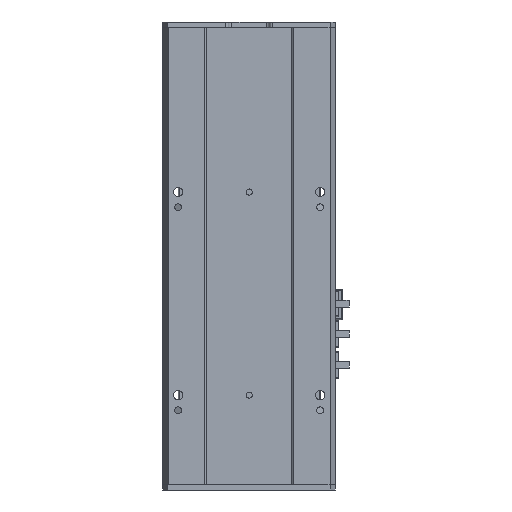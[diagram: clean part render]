
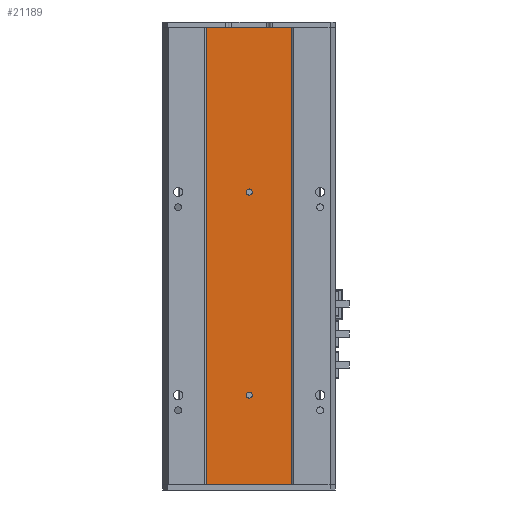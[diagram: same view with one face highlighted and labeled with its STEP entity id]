
A CAD part, front view. The second image highlights one B-rep face of the part: STEP entity #21189.
In plain terms, the highlighted planar face has unit normal (0, -1, 0).
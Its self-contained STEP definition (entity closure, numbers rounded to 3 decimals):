
#639 = EDGE_CURVE ( 'NONE', #16633, #8098, #24582, .T. ) ;
#1236 = CARTESIAN_POINT ( 'NONE',  ( 42.916, 2.57, 0. ) ) ;
#1749 = EDGE_CURVE ( 'NONE', #2679, #22700, #20309, .T. ) ;
#1962 = AXIS2_PLACEMENT_3D ( 'NONE', #16415, #3069, #18629 ) ;
#2679 = VERTEX_POINT ( 'NONE', #24534 ) ;
#3069 = DIRECTION ( 'NONE',  ( 0., 1., 0. ) ) ;
#3189 = CARTESIAN_POINT ( 'NONE',  ( 42.916, 2.57, 451. ) ) ;
#3740 = EDGE_CURVE ( 'NONE', #20918, #10129, #27542, .T. ) ;
#4021 = CIRCLE ( 'NONE', #13290, 3. ) ;
#4264 = DIRECTION ( 'NONE',  ( 0., 1., 0. ) ) ;
#4934 = ORIENTED_EDGE ( 'NONE', *, *, #3740, .T. ) ;
#5278 = FACE_BOUND ( 'NONE', #21255, .T. ) ;
#5359 = AXIS2_PLACEMENT_3D ( 'NONE', #17580, #4264, #19842 ) ;
#5479 = AXIS2_PLACEMENT_3D ( 'NONE', #13134, #28744, #15377 ) ;
#5627 = DIRECTION ( 'NONE',  ( -1., 0., 0. ) ) ;
#5739 = PLANE ( 'NONE',  #24180 ) ;
#6740 = ORIENTED_EDGE ( 'NONE', *, *, #13727, .F. ) ;
#6857 = CARTESIAN_POINT ( 'NONE',  ( 85., 2.57, 85.5 ) ) ;
#7831 = VECTOR ( 'NONE', #5627, 1000. ) ;
#7976 = DIRECTION ( 'NONE',  ( 0., 0., 1. ) ) ;
#8098 = VERTEX_POINT ( 'NONE', #21126 ) ;
#8388 = LINE ( 'NONE', #9442, #20197 ) ;
#8416 = VERTEX_POINT ( 'NONE', #6857 ) ;
#8603 = DIRECTION ( 'NONE',  ( 0., 1., 0. ) ) ;
#9101 = EDGE_LOOP ( 'NONE', ( #14309, #17227 ) ) ;
#9442 = CARTESIAN_POINT ( 'NONE',  ( 42.916, 2.57, 0. ) ) ;
#10129 = VERTEX_POINT ( 'NONE', #10835 ) ;
#10254 = CARTESIAN_POINT ( 'NONE',  ( 85., 2.57, 91.5 ) ) ;
#10835 = CARTESIAN_POINT ( 'NONE',  ( 42.916, 2.57, 451. ) ) ;
#11238 = CIRCLE ( 'NONE', #5359, 3. ) ;
#11258 = EDGE_LOOP ( 'NONE', ( #4934, #6740, #27268, #21394 ) ) ;
#11733 = EDGE_CURVE ( 'NONE', #8098, #16633, #17877, .T. ) ;
#13134 = CARTESIAN_POINT ( 'NONE',  ( 85., 2.57, 288.5 ) ) ;
#13290 = AXIS2_PLACEMENT_3D ( 'NONE', #21883, #8603, #24145 ) ;
#13628 = CARTESIAN_POINT ( 'NONE',  ( 126.916, 2.57, 451. ) ) ;
#13727 = EDGE_CURVE ( 'NONE', #22700, #10129, #8388, .T. ) ;
#14309 = ORIENTED_EDGE ( 'NONE', *, *, #17752, .T. ) ;
#15377 = DIRECTION ( 'NONE',  ( 0., 0., 1. ) ) ;
#15552 = LINE ( 'NONE', #20034, #26705 ) ;
#16415 = CARTESIAN_POINT ( 'NONE',  ( 85., 2.57, 288.5 ) ) ;
#16425 = FACE_OUTER_BOUND ( 'NONE', #11258, .T. ) ;
#16633 = VERTEX_POINT ( 'NONE', #23003 ) ;
#17227 = ORIENTED_EDGE ( 'NONE', *, *, #20802, .T. ) ;
#17424 = CARTESIAN_POINT ( 'NONE',  ( 42.916, 2.57, 0. ) ) ;
#17546 = EDGE_CURVE ( 'NONE', #2679, #20918, #15552, .T. ) ;
#17580 = CARTESIAN_POINT ( 'NONE',  ( 85., 2.57, 88.5 ) ) ;
#17752 = EDGE_CURVE ( 'NONE', #8416, #28527, #4021, .T. ) ;
#17877 = CIRCLE ( 'NONE', #5479, 3. ) ;
#18629 = DIRECTION ( 'NONE',  ( 0., 0., 1. ) ) ;
#18763 = DIRECTION ( 'NONE',  ( -1., 0., 0. ) ) ;
#19391 = ORIENTED_EDGE ( 'NONE', *, *, #11733, .T. ) ;
#19842 = DIRECTION ( 'NONE',  ( 0., 0., 1. ) ) ;
#20034 = CARTESIAN_POINT ( 'NONE',  ( 126.916, 2.57, 0. ) ) ;
#20197 = VECTOR ( 'NONE', #24991, 1000. ) ;
#20309 = LINE ( 'NONE', #17424, #7831 ) ;
#20781 = ORIENTED_EDGE ( 'NONE', *, *, #639, .T. ) ;
#20802 = EDGE_CURVE ( 'NONE', #28527, #8416, #11238, .T. ) ;
#20918 = VERTEX_POINT ( 'NONE', #13628 ) ;
#21126 = CARTESIAN_POINT ( 'NONE',  ( 85., 2.57, 291.5 ) ) ;
#21189 = ADVANCED_FACE ( 'NONE', ( #27591, #5278, #16425 ), #5739, .F. ) ;
#21250 = DIRECTION ( 'NONE',  ( 0., 1., 0. ) ) ;
#21255 = EDGE_LOOP ( 'NONE', ( #20781, #19391 ) ) ;
#21394 = ORIENTED_EDGE ( 'NONE', *, *, #17546, .T. ) ;
#21544 = VECTOR ( 'NONE', #18763, 1000. ) ;
#21883 = CARTESIAN_POINT ( 'NONE',  ( 85., 2.57, 88.5 ) ) ;
#22257 = DIRECTION ( 'NONE',  ( 0., 0., 1. ) ) ;
#22700 = VERTEX_POINT ( 'NONE', #28739 ) ;
#23003 = CARTESIAN_POINT ( 'NONE',  ( 85., 2.57, 285.5 ) ) ;
#24145 = DIRECTION ( 'NONE',  ( 0., 0., 1. ) ) ;
#24180 = AXIS2_PLACEMENT_3D ( 'NONE', #1236, #21250, #7976 ) ;
#24534 = CARTESIAN_POINT ( 'NONE',  ( 126.916, 2.57, 0. ) ) ;
#24582 = CIRCLE ( 'NONE', #1962, 3. ) ;
#24991 = DIRECTION ( 'NONE',  ( 0., 0., 1. ) ) ;
#26705 = VECTOR ( 'NONE', #22257, 1000. ) ;
#27268 = ORIENTED_EDGE ( 'NONE', *, *, #1749, .F. ) ;
#27542 = LINE ( 'NONE', #3189, #21544 ) ;
#27591 = FACE_BOUND ( 'NONE', #9101, .T. ) ;
#28527 = VERTEX_POINT ( 'NONE', #10254 ) ;
#28739 = CARTESIAN_POINT ( 'NONE',  ( 42.916, 2.57, 0. ) ) ;
#28744 = DIRECTION ( 'NONE',  ( 0., 1., 0. ) ) ;
